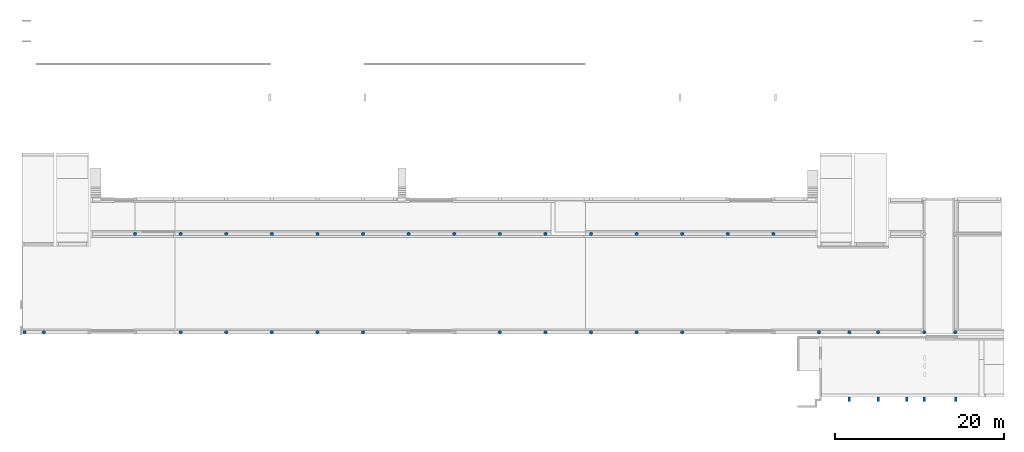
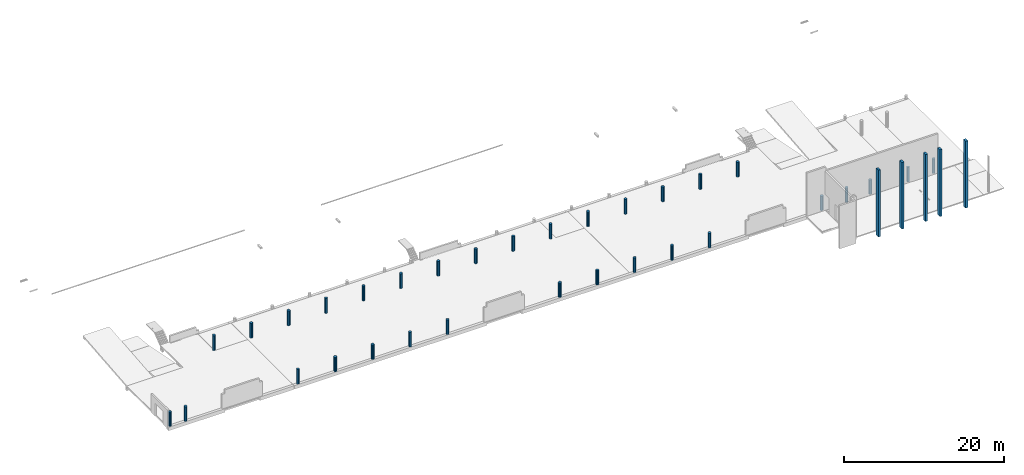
# One storey, part 1 of 9: 37 columns.
"""IFC2X3 building model written with IfcOpenShell, lengths in millimetres."""

from ifc_helpers import new_model, entity, si_unit, converted_unit, derived_unit, direction, frame, frame_2d, origin, place, context, subcontext, project, spatial, rectangle, circle, extrude, source, transform, mapped, material, type_object, type_shapes, element, save


model = new_model("IFC2X3")

# Units and contexts
model_context = context("Model", 3, precision=0.01, world=origin(), true_north=direction((6.12303176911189e-17, 1.0)))
body_context = subcontext(model_context, "Body", "Model", "MODEL_VIEW")
ifc_project = project(units=[si_unit("LENGTHUNIT", "METRE", prefix="MILLI"), si_unit("AREAUNIT", "SQUARE_METRE"), si_unit("VOLUMEUNIT", "CUBIC_METRE"), converted_unit("PLANEANGLEUNIT", "DEGREE", entity("IfcRatioMeasure", 0.0174532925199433), si_unit("PLANEANGLEUNIT", "RADIAN"), dimensions=[0, 0, 0, 0, 0, 0, 0]), si_unit("MASSUNIT", "GRAM", prefix="KILO"), derived_unit("MASSDENSITYUNIT", [(si_unit("MASSUNIT", "GRAM", prefix="KILO"), 1), (si_unit("LENGTHUNIT", "METRE"), -3)]), si_unit("TIMEUNIT", "SECOND"), si_unit("FREQUENCYUNIT", "HERTZ"), si_unit("THERMODYNAMICTEMPERATUREUNIT", "DEGREE_CELSIUS"), derived_unit("THERMALTRANSMITTANCEUNIT", [(si_unit("MASSUNIT", "GRAM", prefix="KILO"), 1), (si_unit("THERMODYNAMICTEMPERATUREUNIT", "KELVIN"), -1), (si_unit("TIMEUNIT", "SECOND"), -3)]), derived_unit("VOLUMETRICFLOWRATEUNIT", [(si_unit("LENGTHUNIT", "METRE"), 3), (si_unit("TIMEUNIT", "SECOND"), -1)]), si_unit("ELECTRICCURRENTUNIT", "AMPERE"), si_unit("ELECTRICVOLTAGEUNIT", "VOLT"), si_unit("POWERUNIT", "WATT"), si_unit("FORCEUNIT", "NEWTON", prefix="KILO"), si_unit("ILLUMINANCEUNIT", "LUX"), si_unit("LUMINOUSFLUXUNIT", "LUMEN"), si_unit("LUMINOUSINTENSITYUNIT", "CANDELA"), derived_unit("USERDEFINED", [(si_unit("MASSUNIT", "GRAM", prefix="KILO"), -1), (si_unit("LENGTHUNIT", "METRE"), -2), (si_unit("TIMEUNIT", "SECOND"), 3), (si_unit("LUMINOUSFLUXUNIT", "LUMEN"), 1)]), derived_unit("LINEARVELOCITYUNIT", [(si_unit("LENGTHUNIT", "METRE"), 1), (si_unit("TIMEUNIT", "SECOND"), -1)]), si_unit("PRESSUREUNIT", "PASCAL"), derived_unit("USERDEFINED", [(si_unit("LENGTHUNIT", "METRE"), -2), (si_unit("MASSUNIT", "GRAM", prefix="KILO"), 1), (si_unit("TIMEUNIT", "SECOND"), -2)])], contexts=[model_context])

# Site, building, storey
site_placement = place(None, origin())
site = spatial("IfcSite", under=ifc_project, at=site_placement, Name="Default", CompositionType="ELEMENT")
building_placement = place(site_placement, origin())
building = spatial("IfcBuilding", under=site, at=building_placement, Name="niet gebruiken", CompositionType="ELEMENT")
storey_placement = place(building_placement, frame((0.0, 0.0, 5570.0)))
storey = spatial("IfcBuildingStorey", under=building, at=storey_placement, Name="01b tweede tussenverdieping", CompositionType="ELEMENT", Elevation=5570.0)

# Columns
ifc_material = material(Name="NLRS_f2_beton prefab")
column_type_1 = type_object("IfcColumnType", Name="ø400", PredefinedType="COLUMN", material=ifc_material)
shared_shape_1 = source(origin(), body_context, "Body", "SweptSolid", [
    extrude(circle(Radius=200.0, at=frame_2d((1.69197988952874e-14, -3.02923644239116e-13), x_axis=(1.0, 0.0))), frame((0.0, 0.0, 5520.0)), (0.0, 0.0, 1.0), 2299.99999999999),
])
type_shapes(column_type_1, [shared_shape_1])
for number, where in (
    (1, (21600.0, 20846.0, -5570.0)),
    (2, (27000.0, 20846.0, -5570.0)),
    (3, (32400.0, 20846.0, -5570.0)),
    (4, (37800.0, 20846.0, -5570.0)),
    (5, (43200.0, 20846.0, -5570.0)),
    (6, (48600.0, 20846.0, -5570.0)),
    (7, (54000.0, 20846.0, -5570.0)),
    (8, (59400.0, 20846.0, -5570.0)),
    (9, (64800.0, 20846.0, -5570.0)),
    (10, (70200.0, 20846.0, -5570.0)),
    (11, (75600.0, 20846.0, -5570.0)),
    (12, (81000.0, 20846.0, -5570.0)),
    (13, (86400.0, 20846.0, -5570.0)),
    (14, (91800.0, 20846.0, -5570.0)),
    (15, (97200.0, 20846.0, -5570.0)),
):
    element("IfcColumn", number, at=place(storey_placement, frame(where)), inside=storey, type_object=column_type_1, material=ifc_material, Name="NLRS_28. kolom rond_gen:ø400", ObjectType="ø400", context=body_context, shape_type="MappedRepresentation", body=[
        mapped(shared_shape_1, transform((0.0, 0.0, 0.0), scale=1.0)),
    ])
column_type_2 = type_object("IfcColumnType", Name="ø400", PredefinedType="COLUMN", material=ifc_material)
shared_shape_2 = source(origin(), body_context, "Body", "SweptSolid", [
    extrude(circle(Radius=200.0, at=frame_2d((1.69197988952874e-14, -3.02923644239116e-13), x_axis=(1.0, 0.0))), frame((0.0, 0.0, 5600.0)), (0.0, 0.0, 1.0), 2219.99999999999),
])
type_shapes(column_type_2, [shared_shape_2])
for number, where in (
    (16, (10800.0, 9196.0, -5570.0)),
    (17, (27000.0, 9196.0, -5570.0)),
    (18, (32400.0, 9196.0, -5570.0)),
    (19, (37800.0, 9196.0, -5570.0)),
    (20, (43200.0, 9196.0, -5570.0)),
    (21, (48600.0, 9196.0, -5570.0)),
    (22, (64800.0, 9196.0, -5570.0)),
    (23, (70200.0, 9196.0, -5570.0)),
    (24, (75600.0, 9196.0, -5570.0)),
    (25, (81000.0, 9196.0, -5570.0)),
    (26, (86400.0, 9196.0, -5570.0)),
    (27, (102600.0, 9196.0, -5570.0)),
    (28, (118750.0, 9196.0, -5570.0)),
    (29, (115075.0, 9196.0, -5570.0)),
    (30, (109600.0, 9196.0, -5570.0)),
    (31, (106200.0, 9196.0, -5570.0)),
    (32, (8500.0, 9196.0, -5570.0)),
):
    element("IfcColumn", number, at=place(storey_placement, frame(where)), inside=storey, type_object=column_type_2, material=ifc_material, Name="NLRS_28. kolom rond_gen:ø400", ObjectType="ø400", context=body_context, shape_type="MappedRepresentation", body=[
        mapped(shared_shape_2, transform((0.0, 0.0, 0.0), scale=1.0)),
    ])
column_type_3 = type_object("IfcColumnType", Name="300x550", PredefinedType="COLUMN", material=ifc_material)
shared_shape_3 = source(origin(), body_context, "Body", "SweptSolid", [
    extrude(rectangle(XDim=550.0, YDim=300.000000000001, at=frame_2d((-5.6843418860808e-14, 0.0), x_axis=(1.0, 0.0))), frame((106200.000370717, 1275.0, 5210.0), z_axis=(0.0, 0.0, 1.0), x_axis=(0.0, -1.0, 0.0)), (0.0, 0.0, 1.0), 10190.0),
])
type_shapes(column_type_3, [shared_shape_3])
column_1_placement = place(storey_placement, frame((0.0, 0.0, -5570.0)))
element("IfcColumn", 33, at=column_1_placement, inside=storey, type_object=column_type_3, material=ifc_material, Name="NLRS_28. kolom vierkant_gen1:300x550", ObjectType="300x550", context=body_context, shape_type="MappedRepresentation", body=[
    mapped(shared_shape_3, transform((0.0, 0.0, 0.0), scale=1.0)),
])
column_type_4 = type_object("IfcColumnType", Name="300x550", PredefinedType="COLUMN", material=ifc_material)
shared_shape_4 = source(origin(), body_context, "Body", "SweptSolid", [
    extrude(rectangle(XDim=550.0, YDim=300.000000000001, at=frame_2d((-5.6843418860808e-14, 0.0), x_axis=(1.0, 0.0))), frame((109600.000370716, 1275.0, 5210.0), z_axis=(0.0, 0.0, 1.0), x_axis=(0.0, -1.0, 0.0)), (0.0, 0.0, 1.0), 10190.0),
])
type_shapes(column_type_4, [shared_shape_4])
column_2_placement = place(storey_placement, frame((0.0, 0.0, -5570.0)))
element("IfcColumn", 34, at=column_2_placement, inside=storey, type_object=column_type_4, material=ifc_material, Name="NLRS_28. kolom vierkant_gen1:300x550", ObjectType="300x550", context=body_context, shape_type="MappedRepresentation", body=[
    mapped(shared_shape_4, transform((0.0, 0.0, 0.0), scale=1.0)),
])
column_type_5 = type_object("IfcColumnType", Name="300x550", PredefinedType="COLUMN", material=ifc_material)
shared_shape_5 = source(origin(), body_context, "Body", "SweptSolid", [
    extrude(rectangle(XDim=550.0, YDim=300.000000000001, at=frame_2d((-5.6843418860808e-14, 0.0), x_axis=(1.0, 0.0))), frame((113000.000370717, 1275.0, 5210.0), z_axis=(0.0, 0.0, 1.0), x_axis=(0.0, -1.0, 0.0)), (0.0, 0.0, 1.0), 10190.0),
])
type_shapes(column_type_5, [shared_shape_5])
column_3_placement = place(storey_placement, frame((0.0, 0.0, -5570.0)))
element("IfcColumn", 35, at=column_3_placement, inside=storey, type_object=column_type_5, material=ifc_material, Name="NLRS_28. kolom vierkant_gen1:300x550", ObjectType="300x550", context=body_context, shape_type="MappedRepresentation", body=[
    mapped(shared_shape_5, transform((0.0, 0.0, 0.0), scale=1.0)),
])
column_type_6 = type_object("IfcColumnType", Name="300x550", PredefinedType="COLUMN", material=ifc_material)
shared_shape_6 = source(origin(), body_context, "Body", "SweptSolid", [
    extrude(rectangle(XDim=550.0, YDim=300.000000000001, at=frame_2d((-5.6843418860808e-14, 0.0), x_axis=(1.0, 0.0))), frame((115075.000813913, 1275.0, 5210.0), z_axis=(0.0, 0.0, 1.0), x_axis=(0.0, -1.0, 0.0)), (0.0, 0.0, 1.0), 10190.0),
])
type_shapes(column_type_6, [shared_shape_6])
column_4_placement = place(storey_placement, frame((0.0, 0.0, -5570.0)))
element("IfcColumn", 36, at=column_4_placement, inside=storey, type_object=column_type_6, material=ifc_material, Name="NLRS_28. kolom vierkant_gen1:300x550", ObjectType="300x550", context=body_context, shape_type="MappedRepresentation", body=[
    mapped(shared_shape_6, transform((0.0, 0.0, 0.0), scale=1.0)),
])
column_type_7 = type_object("IfcColumnType", Name="300x550", PredefinedType="COLUMN", material=ifc_material)
shared_shape_7 = source(origin(), body_context, "Body", "SweptSolid", [
    extrude(rectangle(XDim=550.0, YDim=300.000000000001, at=frame_2d((-5.6843418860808e-14, 0.0), x_axis=(1.0, 0.0))), frame((118800.0, 1275.0, 5210.0), z_axis=(0.0, 0.0, 1.0), x_axis=(0.0, -1.0, 0.0)), (0.0, 0.0, 1.0), 10190.0),
])
type_shapes(column_type_7, [shared_shape_7])
column_5_placement = place(storey_placement, frame((0.0, 0.0, -5570.0)))
element("IfcColumn", 37, at=column_5_placement, inside=storey, type_object=column_type_7, material=ifc_material, Name="NLRS_28. kolom vierkant_gen1:300x550", ObjectType="300x550", context=body_context, shape_type="MappedRepresentation", body=[
    mapped(shared_shape_7, transform((0.0, 0.0, 0.0), scale=1.0)),
])

save(model, "model.ifc")
